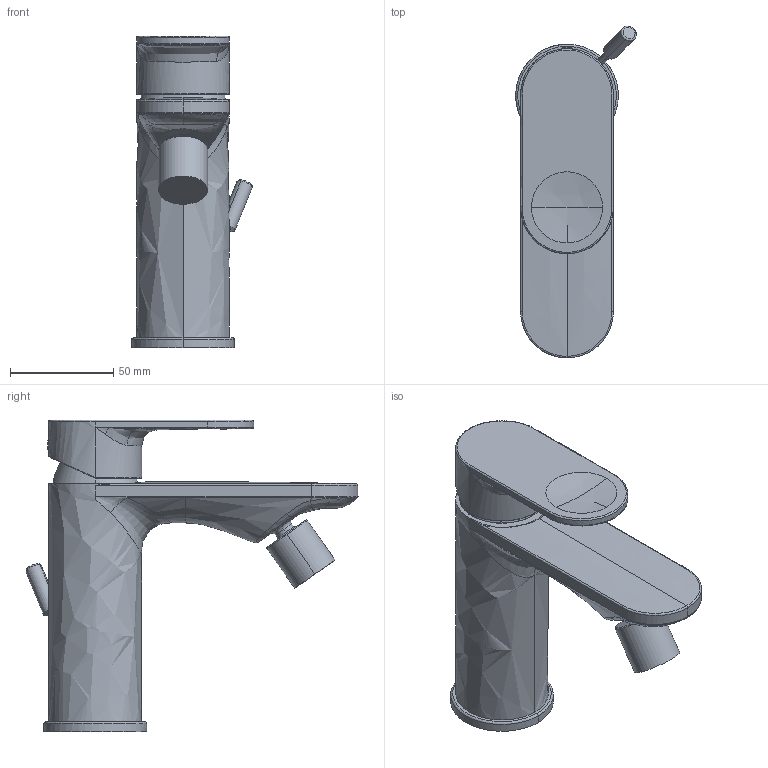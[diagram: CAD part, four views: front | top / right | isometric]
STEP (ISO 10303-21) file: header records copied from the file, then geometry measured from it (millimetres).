
FILE_DESCRIPTION(/* description */ (''),/* implementation_level */ '2;1');
FILE_NAME(/* name */ 'B32400001010',/* time_stamp */ '2019-02-26T10:31:04+01:00',/* author */ (''),/* organization */ (''),/* preprocessor_version */ 'ST-DEVELOPER v15',/* originating_system */ '',/* authorisation */ '');
FILE_SCHEMA (('AUTOMOTIVE_DESIGN'));
Length unit declared in the file: millimetre
Products named in the file (1): Document
Bounding box: 58.43 x 161.09 x 151.38 mm (x, y, z)
Volume: 3738.6 mm3; surface area: 64529.1 mm2
Topology: 1 solids, 7 shells, 149 faces, 359 edges, 218 vertices
Faces by surface type: bspline 149
Entity records: 20290 total; most frequent: CARTESIAN_POINT 15902, B_SPLINE_CURVE_WITH_KNOTS 821, ORIENTED_EDGE 686, PCURVE 686, DEFINITIONAL_REPRESENTATION 686, SURFACE_CURVE 354, EDGE_CURVE 354, VERTEX_POINT 218
